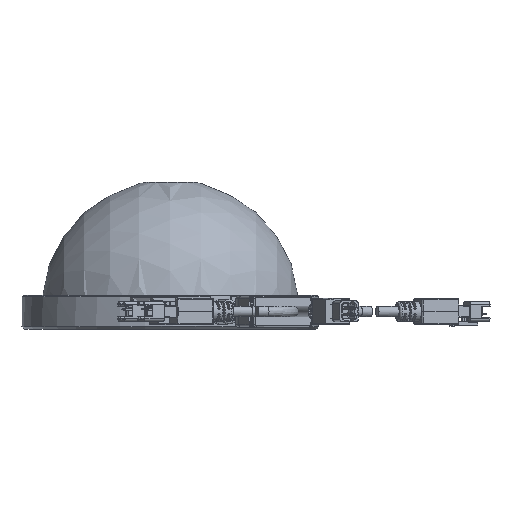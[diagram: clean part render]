
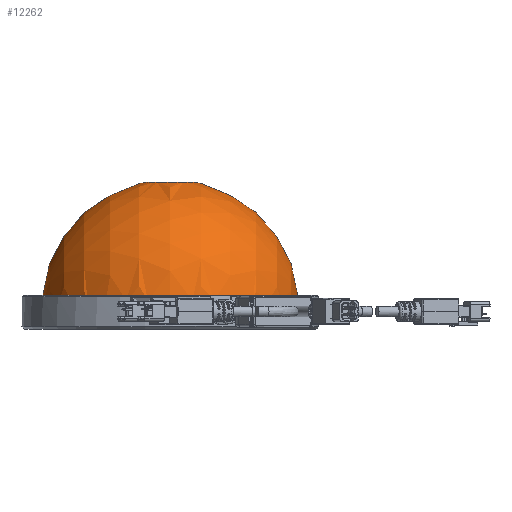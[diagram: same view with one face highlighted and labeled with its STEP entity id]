
A CAD part, top view. The second image highlights one B-rep face of the part: STEP entity #12262.
In plain terms, the highlighted spherical face has radius 49.5 mm.
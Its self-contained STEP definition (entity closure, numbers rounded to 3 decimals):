
#490 = DIRECTION ( 'NONE',  ( 0., 0., -1. ) ) ;
#730 = VERTEX_POINT ( 'NONE', #17013 ) ;
#824 = ORIENTED_EDGE ( 'NONE', *, *, #5703, .F. ) ;
#2143 = EDGE_LOOP ( 'NONE', ( #29291 ) ) ;
#2529 = FACE_OUTER_BOUND ( 'NONE', #2143, .T. ) ;
#4796 = CIRCLE ( 'NONE', #32732, 10. ) ;
#5004 = DIRECTION ( 'NONE',  ( 0., 1., 0. ) ) ;
#5703 = EDGE_CURVE ( 'NONE', #30360, #30360, #4796, .T. ) ;
#8686 = CARTESIAN_POINT ( 'NONE',  ( 0., 52.479, 0. ) ) ;
#11878 = DIRECTION ( 'NONE',  ( 0., 1., 0. ) ) ;
#12262 = ADVANCED_FACE ( 'NONE', ( #33989, #2529 ), #19450, .T. ) ;
#13411 = AXIS2_PLACEMENT_3D ( 'NONE', #27220, #18179, #35592 ) ;
#15842 = AXIS2_PLACEMENT_3D ( 'NONE', #19195, #5004, #22246 ) ;
#16814 = EDGE_CURVE ( 'NONE', #730, #730, #36590, .T. ) ;
#17013 = CARTESIAN_POINT ( 'NONE',  ( 0., 7., -49.409 ) ) ;
#18179 = DIRECTION ( 'NONE',  ( 1., 0., 0. ) ) ;
#19195 = CARTESIAN_POINT ( 'NONE',  ( 0., 7., 0. ) ) ;
#19450 = SPHERICAL_SURFACE ( 'NONE', #13411, 49.5 ) ;
#22246 = DIRECTION ( 'NONE',  ( 0., 0., -1. ) ) ;
#25291 = CARTESIAN_POINT ( 'NONE',  ( 0., 52.479, -10. ) ) ;
#27220 = CARTESIAN_POINT ( 'NONE',  ( 0., 4., 0. ) ) ;
#29291 = ORIENTED_EDGE ( 'NONE', *, *, #16814, .T. ) ;
#30360 = VERTEX_POINT ( 'NONE', #25291 ) ;
#32732 = AXIS2_PLACEMENT_3D ( 'NONE', #8686, #11878, #490 ) ;
#33989 = FACE_OUTER_BOUND ( 'NONE', #34085, .T. ) ;
#34085 = EDGE_LOOP ( 'NONE', ( #824 ) ) ;
#35592 = DIRECTION ( 'NONE',  ( 0., 0., 1. ) ) ;
#36590 = CIRCLE ( 'NONE', #15842, 49.409 ) ;
